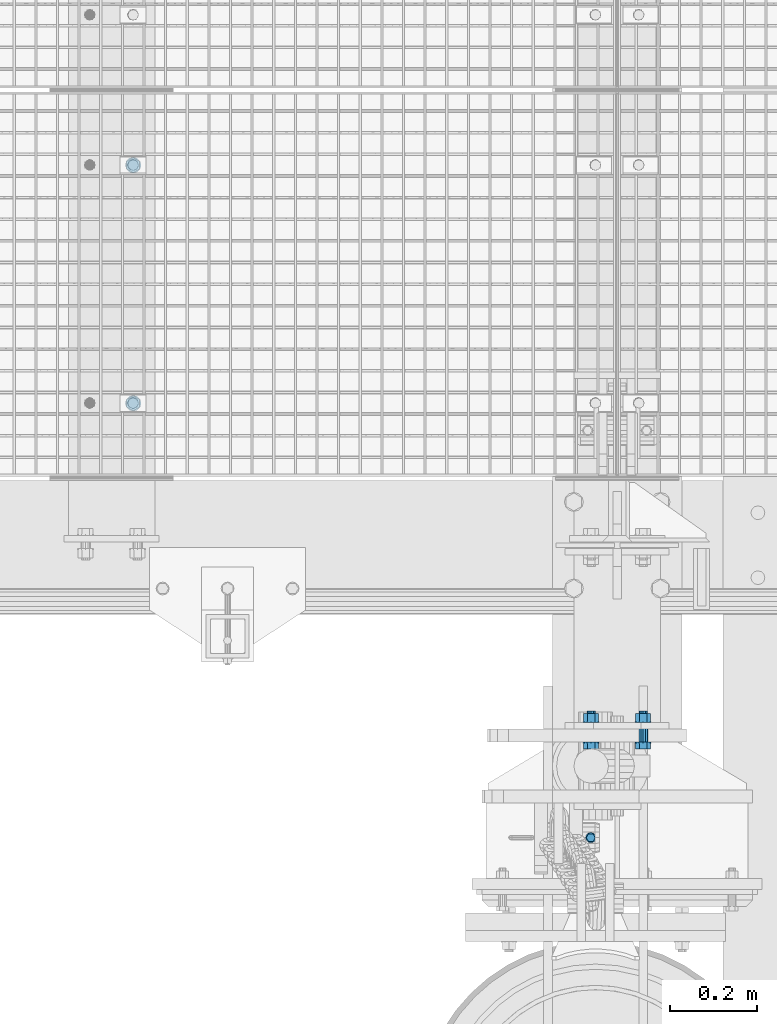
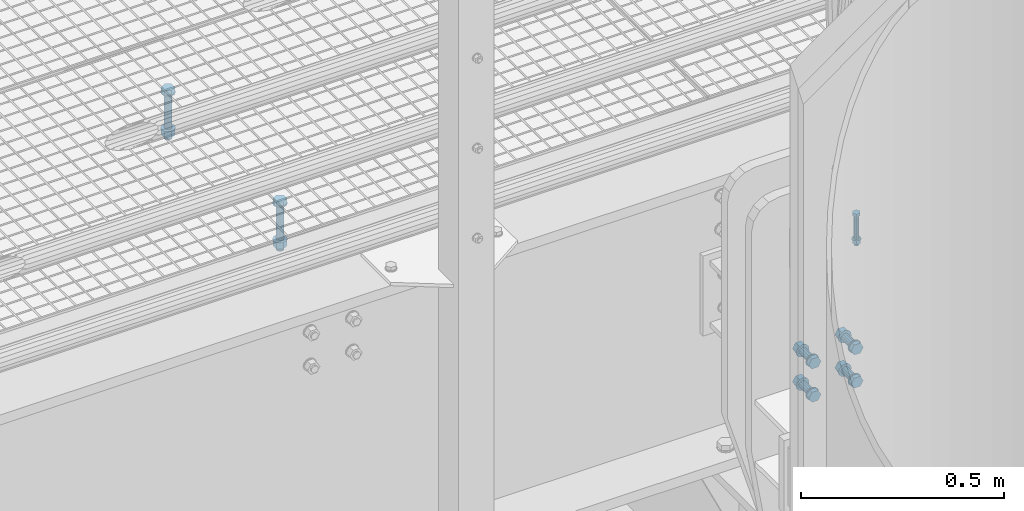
# One storey, part 20 of 1530: 3 mechanical fasteners.
"""IFC2X3 building model written with IfcOpenShell, lengths in millimetres."""

from ifc_helpers import new_model, si_unit, frame, origin_with_axes, place, context, subcontext, project, spatial, faceted_brep, source, transform, mapped, material, type_object, element, save


model = new_model("IFC2X3")

# Units and contexts
model_context = context("Model", 3, precision=1e-05, world=origin_with_axes())
body_context = subcontext(model_context, "Body", "Model", "MODEL_VIEW")
ifc_project = project(units=[si_unit("LENGTHUNIT", "METRE", prefix="MILLI"), si_unit("AREAUNIT", "SQUARE_METRE"), si_unit("VOLUMEUNIT", "CUBIC_METRE"), si_unit("MASSUNIT", "GRAM", prefix="KILO"), si_unit("TIMEUNIT", "SECOND"), si_unit("PLANEANGLEUNIT", "RADIAN"), si_unit("SOLIDANGLEUNIT", "STERADIAN"), si_unit("THERMODYNAMICTEMPERATUREUNIT", "DEGREE_CELSIUS"), si_unit("LUMINOUSINTENSITYUNIT", "LUMEN")], contexts=[model_context])

# Site, building, storey
site_placement = place(None, origin_with_axes())
site = spatial("IfcSite", under=ifc_project, at=site_placement, Name="Brattvåg", CompositionType="ELEMENT")
building_placement = place(site_placement, origin_with_axes())
building = spatial("IfcBuilding", under=site, at=building_placement, Name="Undefined", CompositionType="ELEMENT")
storey_placement = place(building_placement, origin_with_axes())
storey = spatial("IfcBuildingStorey", under=building, at=storey_placement, Name="Undefined", CompositionType="ELEMENT", Elevation=0.0)

# Mechanical fasteners
ifc_material = material(Name="8")
mechanical_fastener_type = type_object("IfcMechanicalFastenerType", Name="Bolt assembly")
shared_shape_1 = source(origin_with_axes(), body_context, "Body", "Brep", [
    faceted_brep([(17.3205080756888, -10.5, 0.0), (8.66025403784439, -10.5, 15.0), (-8.66025403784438, -10.5, 15.0), (-17.3205080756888, -10.5, 2.12115047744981e-15), (-8.66025403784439, -10.5, -15.0), (8.66025403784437, -10.5, -15.0), (8.66025403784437, 2.0, -15.0), (-8.66025403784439, 2.0, -15.0), (-17.3205080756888, 2.0, 2.12115047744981e-15), (-8.66025403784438, 2.0, 15.0), (8.66025403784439, 2.0, 15.0), (17.3205080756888, 2.0, 0.0), (10.0, 2.0, 0.0), (8.66025403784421, 2.0, 5.0000000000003), (4.9999999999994, 2.0, 8.66025403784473), (-1.03633598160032e-12, 2.0, 10.0), (-5.00000000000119, 2.0, 8.6602540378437), (-8.66025403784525, 2.0, 4.99999999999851), (-10.0, 2.0, -2.07267196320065e-12), (-8.66025403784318, 2.0, -5.00000000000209), (-4.99999999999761, 2.0, -8.66025403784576), (3.09790571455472e-12, 2.0, -10.0), (5.00000000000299, 2.0, -8.66025403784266), (8.66025403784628, 2.0, -4.99999999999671), (8.66025403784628, 142.0, -4.99999999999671), (5.00000000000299, 142.0, -8.66025403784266), (3.09790571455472e-12, 142.0, -10.0), (-4.99999999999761, 142.0, -8.66025403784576), (-8.66025403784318, 142.0, -5.00000000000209), (-10.0, 142.0, -2.07267196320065e-12), (-8.66025403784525, 142.0, 4.99999999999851), (-5.00000000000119, 142.0, 8.6602540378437), (-1.03633598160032e-12, 142.0, 10.0), (4.9999999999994, 142.0, 8.66025403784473), (8.66025403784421, 142.0, 5.0000000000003), (10.0, 142.0, 0.0), (18.5, 2.0, 0.0), (16.0214699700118, 2.0, 9.25000000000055), (9.2499999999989, 2.0, 16.0214699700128), (-1.9172215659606e-12, 2.0, 18.5), (-9.25000000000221, 2.0, 16.0214699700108), (-16.0214699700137, 2.0, 9.24999999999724), (-18.5, 2.0, -3.83444313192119e-12), (-16.0214699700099, 2.0, -9.25000000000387), (-9.24999999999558, 2.0, -16.0214699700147), (5.73112557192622e-12, 2.0, -18.5), (9.25000000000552, 2.0, -16.0214699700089), (16.0214699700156, 2.0, -9.24999999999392), (16.0214699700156, 5.0, -9.24999999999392), (9.25000000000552, 5.0, -16.0214699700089), (5.73112557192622e-12, 5.0, -18.5), (-9.24999999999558, 5.0, -16.0214699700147), (-16.0214699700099, 5.0, -9.25000000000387), (-18.5, 5.0, -3.83444313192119e-12), (-16.0214699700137, 5.0, 9.24999999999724), (-9.25000000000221, 5.0, 16.0214699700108), (-1.9172215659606e-12, 5.0, 18.5), (9.2499999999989, 5.0, 16.0214699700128), (16.0214699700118, 5.0, 9.25000000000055), (18.5, 5.0, 0.0), (18.5, 109.998931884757, 0.0), (16.0214699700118, 109.998931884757, 9.25000000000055), (9.2499999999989, 109.998931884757, 16.0214699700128), (-1.9172215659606e-12, 109.998931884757, 18.5), (-9.25000000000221, 109.998931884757, 16.0214699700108), (-16.0214699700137, 109.998931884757, 9.24999999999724), (-18.5, 109.998931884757, -3.83444313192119e-12), (-16.0214699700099, 109.998931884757, -9.25000000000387), (-9.24999999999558, 109.998931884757, -16.0214699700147), (5.73112557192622e-12, 109.998931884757, -18.5), (9.25000000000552, 109.998931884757, -16.0214699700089), (16.0214699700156, 109.998931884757, -9.24999999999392), (16.0214699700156, 112.998931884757, -9.24999999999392), (9.25000000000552, 112.998931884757, -16.0214699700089), (5.73112557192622e-12, 112.998931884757, -18.5), (-9.24999999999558, 112.998931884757, -16.0214699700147), (-16.0214699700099, 112.998931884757, -9.25000000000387), (-18.5, 112.998931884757, -3.83444313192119e-12), (-16.0214699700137, 112.998931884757, 9.24999999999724), (-9.25000000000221, 112.998931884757, 16.0214699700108), (-1.9172215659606e-12, 112.998931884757, 18.5), (9.2499999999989, 112.998931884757, 16.0214699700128), (16.0214699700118, 112.998931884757, 9.25000000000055), (18.5, 112.998931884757, 0.0), (17.3205080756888, 112.998931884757, 0.0), (8.66025403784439, 112.998931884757, 15.0), (-8.66025403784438, 112.998931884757, 15.0), (-17.3205080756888, 112.998931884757, 2.12115047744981e-15), (-8.66025403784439, 112.998931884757, -15.0), (8.66025403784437, 112.998931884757, -15.0), (8.66025403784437, 130.998931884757, -15.0), (-8.66025403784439, 130.998931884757, -15.0), (-17.3205080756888, 130.998931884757, 2.12115047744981e-15), (-8.66025403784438, 130.998931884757, 15.0), (8.66025403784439, 130.998931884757, 15.0), (17.3205080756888, 130.998931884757, 0.0)], [[[0, 1, 2, 3, 4, 5]], [[6, 7, 8, 9, 10, 11]], [[0, 11, 10, 1]], [[1, 10, 9, 2]], [[2, 9, 8, 3]], [[3, 8, 7, 4]], [[4, 7, 6, 5]], [[5, 6, 11, 0]], [[12, 13, 14, 15, 16, 17, 18, 19, 20, 21, 22, 23]], [[24, 25, 26, 27, 28, 29, 30, 31, 32, 33, 34, 35]], [[12, 35, 34, 13]], [[13, 34, 33, 14]], [[14, 33, 32, 15]], [[15, 32, 31, 16]], [[16, 31, 30, 17]], [[17, 30, 29, 18]], [[18, 29, 28, 19]], [[19, 28, 27, 20]], [[20, 27, 26, 21]], [[21, 26, 25, 22]], [[22, 25, 24, 23]], [[23, 24, 35, 12]], [[36, 37, 38, 39, 40, 41, 42, 43, 44, 45, 46, 47]], [[48, 49, 50, 51, 52, 53, 54, 55, 56, 57, 58, 59]], [[36, 59, 58, 37]], [[37, 58, 57, 38]], [[38, 57, 56, 39]], [[39, 56, 55, 40]], [[40, 55, 54, 41]], [[41, 54, 53, 42]], [[42, 53, 52, 43]], [[43, 52, 51, 44]], [[44, 51, 50, 45]], [[45, 50, 49, 46]], [[46, 49, 48, 47]], [[47, 48, 59, 36]], [[60, 61, 62, 63, 64, 65, 66, 67, 68, 69, 70, 71]], [[72, 73, 74, 75, 76, 77, 78, 79, 80, 81, 82, 83]], [[60, 83, 82, 61]], [[61, 82, 81, 62]], [[62, 81, 80, 63]], [[63, 80, 79, 64]], [[64, 79, 78, 65]], [[65, 78, 77, 66]], [[66, 77, 76, 67]], [[67, 76, 75, 68]], [[68, 75, 74, 69]], [[69, 74, 73, 70]], [[70, 73, 72, 71]], [[71, 72, 83, 60]], [[84, 85, 86, 87, 88, 89]], [[90, 91, 92, 93, 94, 95]], [[84, 95, 94, 85]], [[85, 94, 93, 86]], [[86, 93, 92, 87]], [[87, 92, 91, 88]], [[88, 91, 90, 89]], [[89, 90, 95, 84]]]),
])
mechanical_fastener_1_placement = place(storey_placement, frame((11132.0119254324, 327.99, -25.0), z_axis=(-1.0, 1.99999855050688e-09, 0.0), x_axis=(0.0, 1.0, 0.0)))
element("IfcMechanicalFastener", 1, at=mechanical_fastener_1_placement, inside=storey, type_object=mechanical_fastener_type, material=ifc_material, Name="Bolt assembly", NominalDiameter=20.0, NominalLength=140.0, context=body_context, shape_type="MappedRepresentation", body=[
    mapped(shared_shape_1, transform((0.0, 0.0, 0.0))),
    mapped(shared_shape_1, transform((549.999999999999, 0.0, 0.0))),
])
shared_shape_2 = source(origin_with_axes(), body_context, "Body", "Brep", [
    faceted_brep([(10.3923048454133, -7.92069730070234, 0.0), (5.19615242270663, -7.92069730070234, 9.0), (-5.19615242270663, -7.92069730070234, 9.0), (-10.3923048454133, -7.92069730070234, 1.27269028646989e-15), (-5.19615242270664, -7.92069730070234, -9.0), (5.19615242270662, -7.92069730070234, -9.0), (5.19615242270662, -0.000697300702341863, -9.0), (-5.19615242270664, -0.000697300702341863, -9.0), (-10.3923048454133, -0.000697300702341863, 1.27269028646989e-15), (-5.19615242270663, -0.000697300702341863, 9.0), (5.19615242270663, -0.000697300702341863, 9.0), (10.3923048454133, -0.000697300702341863, 0.0), (6.0, -0.000697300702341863, 0.0), (5.19615242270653, -0.000697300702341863, 3.00000000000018), (2.99999999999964, -0.000697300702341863, 5.19615242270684), (-6.21801588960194e-13, -0.000697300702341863, 6.0), (-3.00000000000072, -0.000697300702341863, 5.19615242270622), (-5.19615242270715, -0.000697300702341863, 2.9999999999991), (-6.0, -0.000697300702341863, -1.24360317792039e-12), (-5.19615242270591, -0.000697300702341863, -3.00000000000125), (-2.99999999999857, -0.000697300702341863, -5.19615242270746), (1.85874342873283e-12, -0.000697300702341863, -6.0), (3.00000000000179, -0.000697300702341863, -5.1961524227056), (5.19615242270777, -0.000697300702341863, -2.99999999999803), (5.19615242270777, 89.9993026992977, -2.99999999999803), (3.00000000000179, 89.9993026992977, -5.1961524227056), (1.85874342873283e-12, 89.9993026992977, -6.0), (-2.99999999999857, 89.9993026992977, -5.19615242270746), (-5.19615242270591, 89.9993026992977, -3.00000000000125), (-6.0, 89.9993026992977, -1.24360317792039e-12), (-5.19615242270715, 89.9993026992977, 2.9999999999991), (-3.00000000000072, 89.9993026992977, 5.19615242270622), (-6.21801588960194e-13, 89.9993026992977, 6.0), (2.99999999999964, 89.9993026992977, 5.19615242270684), (5.19615242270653, 89.9993026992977, 3.00000000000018), (6.0, 89.9993026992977, 0.0), (12.0, 69.9990430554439, 0.0), (10.3923048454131, 69.9990430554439, 6.00000000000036), (5.99999999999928, 69.9990430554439, 10.3923048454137), (-1.24360317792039e-12, 69.9990430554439, 12.0), (-6.00000000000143, 69.9990430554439, 10.3923048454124), (-10.3923048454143, 69.9990430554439, 5.99999999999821), (-12.0, 69.9990430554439, -2.48720635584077e-12), (-10.3923048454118, 69.9990430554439, -6.00000000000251), (-5.99999999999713, 69.9990430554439, -10.3923048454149), (3.71748685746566e-12, 69.9990430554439, -12.0), (6.00000000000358, 69.9990430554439, -10.3923048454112), (10.3923048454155, 69.9990430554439, -5.99999999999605), (10.3923048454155, 72.4990430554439, -5.99999999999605), (6.00000000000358, 72.4990430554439, -10.3923048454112), (3.71748685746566e-12, 72.4990430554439, -12.0), (-5.99999999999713, 72.4990430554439, -10.3923048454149), (-10.3923048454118, 72.4990430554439, -6.00000000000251), (-12.0, 72.4990430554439, -2.48720635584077e-12), (-10.3923048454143, 72.4990430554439, 5.99999999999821), (-6.00000000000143, 72.4990430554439, 10.3923048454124), (-1.24360317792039e-12, 72.4990430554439, 12.0), (5.99999999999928, 72.4990430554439, 10.3923048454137), (10.3923048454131, 72.4990430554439, 6.00000000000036), (12.0, 72.4990430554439, 0.0), (10.9696551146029, 72.4990430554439, 0.0), (5.48482755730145, 72.4990430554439, 9.5), (-5.48482755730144, 72.4990430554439, 9.5), (-10.9696551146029, 72.4990430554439, 1.34339530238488e-15), (-5.48482755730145, 72.4990430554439, -9.5), (5.48482755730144, 72.4990430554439, -9.5), (5.48482755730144, 82.4990430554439, -9.5), (-5.48482755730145, 82.4990430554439, -9.5), (-10.9696551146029, 82.4990430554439, 1.34339530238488e-15), (-5.48482755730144, 82.4990430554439, 9.5), (5.48482755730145, 82.4990430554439, 9.5), (10.9696551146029, 82.4990430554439, 0.0)], [[[0, 1, 2, 3, 4, 5]], [[6, 7, 8, 9, 10, 11]], [[0, 11, 10, 1]], [[1, 10, 9, 2]], [[2, 9, 8, 3]], [[3, 8, 7, 4]], [[4, 7, 6, 5]], [[5, 6, 11, 0]], [[12, 13, 14, 15, 16, 17, 18, 19, 20, 21, 22, 23]], [[24, 25, 26, 27, 28, 29, 30, 31, 32, 33, 34, 35]], [[12, 35, 34, 13]], [[13, 34, 33, 14]], [[14, 33, 32, 15]], [[15, 32, 31, 16]], [[16, 31, 30, 17]], [[17, 30, 29, 18]], [[18, 29, 28, 19]], [[19, 28, 27, 20]], [[20, 27, 26, 21]], [[21, 26, 25, 22]], [[22, 25, 24, 23]], [[23, 24, 35, 12]], [[36, 37, 38, 39, 40, 41, 42, 43, 44, 45, 46, 47]], [[48, 49, 50, 51, 52, 53, 54, 55, 56, 57, 58, 59]], [[36, 59, 58, 37]], [[37, 58, 57, 38]], [[38, 57, 56, 39]], [[39, 56, 55, 40]], [[40, 55, 54, 41]], [[41, 54, 53, 42]], [[42, 53, 52, 43]], [[43, 52, 51, 44]], [[44, 51, 50, 45]], [[45, 50, 49, 46]], [[46, 49, 48, 47]], [[47, 48, 59, 36]], [[60, 61, 62, 63, 64, 65]], [[66, 67, 68, 69, 70, 71]], [[60, 71, 70, 61]], [[61, 70, 69, 62]], [[62, 69, 68, 63]], [[63, 68, 67, 64]], [[64, 67, 66, 65]], [[65, 66, 71, 60]]]),
    faceted_brep([(7.0, -0.000697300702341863, 0.0), (6.06217782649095, -0.000697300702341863, 3.50000000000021), (3.49999999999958, -0.000697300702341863, 6.06217782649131), (-7.25435187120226e-13, -0.000697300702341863, 7.0), (-3.50000000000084, -0.000697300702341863, 6.06217782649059), (-6.06217782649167, -0.000697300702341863, 3.49999999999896), (-7.0, -0.000697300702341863, -1.45087037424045e-12), (-6.06217782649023, -0.000697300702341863, -3.50000000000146), (-3.49999999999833, -0.000697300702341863, -6.06217782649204), (2.1685340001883e-12, -0.000697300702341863, -7.0), (3.50000000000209, -0.000697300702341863, -6.06217782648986), (6.0621778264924, -0.000697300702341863, -3.4999999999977), (6.0621778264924, 70.0990430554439, -3.4999999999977), (3.50000000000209, 70.0990430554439, -6.06217782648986), (2.1685340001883e-12, 70.0990430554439, -7.0), (-3.49999999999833, 70.0990430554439, -6.06217782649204), (-6.06217782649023, 70.0990430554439, -3.50000000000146), (-7.0, 70.0990430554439, -1.45087037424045e-12), (-6.06217782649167, 70.0990430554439, 3.49999999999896), (-3.50000000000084, 70.0990430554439, 6.06217782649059), (-7.25435187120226e-13, 70.0990430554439, 7.0), (3.49999999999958, 70.0990430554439, 6.06217782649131), (6.06217782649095, 70.0990430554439, 3.50000000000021), (7.0, 70.0990430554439, 0.0)], [[[0, 1, 2, 3, 4, 5, 6, 7, 8, 9, 10, 11]], [[12, 13, 14, 15, 16, 17, 18, 19, 20, 21, 22, 23]], [[0, 23, 22, 1]], [[1, 22, 21, 2]], [[2, 21, 20, 3]], [[3, 20, 19, 4]], [[4, 19, 18, 5]], [[5, 18, 17, 6]], [[6, 17, 16, 7]], [[7, 16, 15, 8]], [[8, 15, 14, 9]], [[9, 14, 13, 10]], [[10, 13, 12, 11]], [[11, 12, 23, 0]]]),
])
mechanical_fastener_2_placement = place(storey_placement, frame((12188.9950409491, -675.491106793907, 174.999176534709), z_axis=(-6.53450002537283e-05, -0.999999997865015, -2.8421709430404e-17), x_axis=(-0.999999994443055, 6.53450000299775e-05, -8.2728000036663e-05)))
element("IfcMechanicalFastener", 2, at=mechanical_fastener_2_placement, inside=storey, type_object=mechanical_fastener_type, material=ifc_material, Name="Bolt assembly", NominalDiameter=12.0, NominalLength=90.0, context=body_context, shape_type="MappedRepresentation", body=[
    mapped(shared_shape_2, transform((0.0, 0.0, 0.0))),
])
shared_shape_3 = source(origin_with_axes(), body_context, "Body", "Brep", [
    faceted_brep([(17.3205080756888, -45.4981880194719, 0.0), (8.66025403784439, -45.4981880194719, 15.0), (-8.66025403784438, -45.4981880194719, 15.0), (-17.3205080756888, -45.4981880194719, 2.12115047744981e-15), (-8.66025403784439, -45.4981880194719, -15.0), (8.66025403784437, -45.4981880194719, -15.0), (8.66025403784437, -32.9981880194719, -15.0), (-8.66025403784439, -32.9981880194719, -15.0), (-17.3205080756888, -32.9981880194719, 2.12115047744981e-15), (-8.66025403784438, -32.9981880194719, 15.0), (8.66025403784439, -32.9981880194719, 15.0), (17.3205080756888, -32.9981880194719, 0.0), (10.0, -32.9981880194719, 0.0), (8.66025403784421, -32.9981880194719, 5.0000000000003), (4.9999999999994, -32.9981880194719, 8.66025403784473), (-1.03633598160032e-12, -32.9981880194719, 10.0), (-5.00000000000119, -32.9981880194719, 8.6602540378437), (-8.66025403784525, -32.9981880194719, 4.99999999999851), (-10.0, -32.9981880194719, -2.07267196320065e-12), (-8.66025403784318, -32.9981880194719, -5.00000000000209), (-4.99999999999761, -32.9981880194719, -8.66025403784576), (3.09790571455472e-12, -32.9981880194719, -10.0), (5.00000000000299, -32.9981880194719, -8.66025403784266), (8.66025403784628, -32.9981880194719, -4.99999999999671), (8.66025403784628, 42.0018119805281, -4.99999999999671), (5.00000000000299, 42.0018119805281, -8.66025403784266), (3.09790571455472e-12, 42.0018119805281, -10.0), (-4.99999999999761, 42.0018119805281, -8.66025403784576), (-8.66025403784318, 42.0018119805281, -5.00000000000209), (-10.0, 42.0018119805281, -2.07267196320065e-12), (-8.66025403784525, 42.0018119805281, 4.99999999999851), (-5.00000000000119, 42.0018119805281, 8.6602540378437), (-1.03633598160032e-12, 42.0018119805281, 10.0), (4.9999999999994, 42.0018119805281, 8.66025403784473), (8.66025403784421, 42.0018119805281, 5.0000000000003), (10.0, 42.0018119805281, 0.0), (18.5, -32.9981880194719, 0.0), (16.0214699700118, -32.9981880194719, 9.25000000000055), (9.2499999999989, -32.9981880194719, 16.0214699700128), (-1.9172215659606e-12, -32.9981880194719, 18.5), (-9.25000000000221, -32.9981880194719, 16.0214699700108), (-16.0214699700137, -32.9981880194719, 9.24999999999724), (-18.5, -32.9981880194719, -3.83444313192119e-12), (-16.0214699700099, -32.9981880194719, -9.25000000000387), (-9.24999999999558, -32.9981880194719, -16.0214699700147), (5.73112557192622e-12, -32.9981880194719, -18.5), (9.25000000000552, -32.9981880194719, -16.0214699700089), (16.0214699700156, -32.9981880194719, -9.24999999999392), (16.0214699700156, -29.9981880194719, -9.24999999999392), (9.25000000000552, -29.9981880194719, -16.0214699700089), (5.73112557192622e-12, -29.9981880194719, -18.5), (-9.24999999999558, -29.9981880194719, -16.0214699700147), (-16.0214699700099, -29.9981880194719, -9.25000000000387), (-18.5, -29.9981880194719, -3.83444313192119e-12), (-16.0214699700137, -29.9981880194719, 9.24999999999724), (-9.25000000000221, -29.9981880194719, 16.0214699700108), (-1.9172215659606e-12, -29.9981880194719, 18.5), (9.2499999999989, -29.9981880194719, 16.0214699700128), (16.0214699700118, -29.9981880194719, 9.25000000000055), (18.5, -29.9981880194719, 0.0), (18.5, 15.0000000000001, 0.0), (16.0214699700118, 15.0000000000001, 9.25000000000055), (9.2499999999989, 15.0000000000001, 16.0214699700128), (-1.9172215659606e-12, 15.0000000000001, 18.5), (-9.25000000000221, 15.0000000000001, 16.0214699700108), (-16.0214699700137, 15.0000000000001, 9.24999999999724), (-18.5, 15.0000000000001, -3.83444313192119e-12), (-16.0214699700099, 15.0000000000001, -9.25000000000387), (-9.24999999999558, 15.0000000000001, -16.0214699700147), (5.73112557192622e-12, 15.0000000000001, -18.5), (9.25000000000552, 15.0000000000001, -16.0214699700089), (16.0214699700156, 15.0000000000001, -9.24999999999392), (16.0214699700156, 18.0000000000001, -9.24999999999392), (9.25000000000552, 18.0000000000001, -16.0214699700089), (5.73112557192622e-12, 18.0000000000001, -18.5), (-9.24999999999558, 18.0000000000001, -16.0214699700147), (-16.0214699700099, 18.0000000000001, -9.25000000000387), (-18.5, 18.0000000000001, -3.83444313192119e-12), (-16.0214699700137, 18.0000000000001, 9.24999999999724), (-9.25000000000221, 18.0000000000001, 16.0214699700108), (-1.9172215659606e-12, 18.0000000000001, 18.5), (9.2499999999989, 18.0000000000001, 16.0214699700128), (16.0214699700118, 18.0000000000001, 9.25000000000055), (18.5, 18.0000000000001, 0.0), (17.3205080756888, 18.0000000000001, 0.0), (8.66025403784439, 18.0000000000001, 15.0), (-8.66025403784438, 18.0000000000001, 15.0), (-17.3205080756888, 18.0000000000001, 2.12115047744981e-15), (-8.66025403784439, 18.0000000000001, -15.0), (8.66025403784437, 18.0000000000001, -15.0), (8.66025403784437, 36.0000000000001, -15.0), (-8.66025403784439, 36.0000000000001, -15.0), (-17.3205080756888, 36.0000000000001, 2.12115047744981e-15), (-8.66025403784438, 36.0000000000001, 15.0), (8.66025403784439, 36.0000000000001, 15.0), (17.3205080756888, 36.0000000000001, 0.0)], [[[0, 1, 2, 3, 4, 5]], [[6, 7, 8, 9, 10, 11]], [[0, 11, 10, 1]], [[1, 10, 9, 2]], [[2, 9, 8, 3]], [[3, 8, 7, 4]], [[4, 7, 6, 5]], [[5, 6, 11, 0]], [[12, 13, 14, 15, 16, 17, 18, 19, 20, 21, 22, 23]], [[24, 25, 26, 27, 28, 29, 30, 31, 32, 33, 34, 35]], [[12, 35, 34, 13]], [[13, 34, 33, 14]], [[14, 33, 32, 15]], [[15, 32, 31, 16]], [[16, 31, 30, 17]], [[17, 30, 29, 18]], [[18, 29, 28, 19]], [[19, 28, 27, 20]], [[20, 27, 26, 21]], [[21, 26, 25, 22]], [[22, 25, 24, 23]], [[23, 24, 35, 12]], [[36, 37, 38, 39, 40, 41, 42, 43, 44, 45, 46, 47]], [[48, 49, 50, 51, 52, 53, 54, 55, 56, 57, 58, 59]], [[36, 59, 58, 37]], [[37, 58, 57, 38]], [[38, 57, 56, 39]], [[39, 56, 55, 40]], [[40, 55, 54, 41]], [[41, 54, 53, 42]], [[42, 53, 52, 43]], [[43, 52, 51, 44]], [[44, 51, 50, 45]], [[45, 50, 49, 46]], [[46, 49, 48, 47]], [[47, 48, 59, 36]], [[60, 61, 62, 63, 64, 65, 66, 67, 68, 69, 70, 71]], [[72, 73, 74, 75, 76, 77, 78, 79, 80, 81, 82, 83]], [[60, 83, 82, 61]], [[61, 82, 81, 62]], [[62, 81, 80, 63]], [[63, 80, 79, 64]], [[64, 79, 78, 65]], [[65, 78, 77, 66]], [[66, 77, 76, 67]], [[67, 76, 75, 68]], [[68, 75, 74, 69]], [[69, 74, 73, 70]], [[70, 73, 72, 71]], [[71, 72, 83, 60]], [[84, 85, 86, 87, 88, 89]], [[90, 91, 92, 93, 94, 95]], [[84, 95, 94, 85]], [[85, 94, 93, 86]], [[86, 93, 92, 87]], [[87, 92, 91, 88]], [[88, 91, 90, 89]], [[89, 90, 95, 84]]]),
    faceted_brep([(11.0, -29.8981880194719, 0.0), (9.52627944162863, -29.8981880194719, 5.50000000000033), (5.49999999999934, -29.8981880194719, 9.5262794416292), (-1.13996957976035e-12, -29.8981880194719, 11.0), (-5.50000000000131, -29.8981880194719, 9.52627944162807), (-9.52627944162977, -29.8981880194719, 5.49999999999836), (-11.0, -29.8981880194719, -2.27993915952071e-12), (-9.5262794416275, -29.8981880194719, -5.5000000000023), (-5.49999999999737, -29.8981880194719, -9.52627944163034), (3.40769628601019e-12, -29.8981880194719, -11.0), (5.50000000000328, -29.8981880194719, -9.52627944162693), (9.52627944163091, -29.8981880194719, -5.49999999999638), (9.52627944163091, 0.101811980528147, -5.49999999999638), (5.50000000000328, 0.101811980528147, -9.52627944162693), (3.40769628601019e-12, 0.101811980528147, -11.0), (-5.49999999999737, 0.101811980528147, -9.52627944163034), (-9.5262794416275, 0.101811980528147, -5.5000000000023), (-11.0, 0.101811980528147, -2.27993915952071e-12), (-9.52627944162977, 0.101811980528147, 5.49999999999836), (-5.50000000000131, 0.101811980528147, 9.52627944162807), (-1.13996957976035e-12, 0.101811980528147, 11.0), (5.49999999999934, 0.101811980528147, 9.5262794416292), (9.52627944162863, 0.101811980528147, 5.50000000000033), (11.0, 0.101811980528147, 0.0), (11.0, -0.1, 0.0), (9.52627944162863, -0.1, 5.50000000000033), (5.49999999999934, -0.1, 9.5262794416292), (-1.13996957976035e-12, -0.1, 11.0), (-5.50000000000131, -0.1, 9.52627944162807), (-9.52627944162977, -0.1, 5.49999999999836), (-11.0, -0.1, -2.27993915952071e-12), (-9.5262794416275, -0.1, -5.5000000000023), (-5.49999999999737, -0.1, -9.52627944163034), (3.40769628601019e-12, -0.1, -11.0), (5.50000000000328, -0.1, -9.52627944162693), (9.52627944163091, -0.1, -5.49999999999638), (9.52627944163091, 15.0000000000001, -5.49999999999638), (5.50000000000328, 15.0000000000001, -9.52627944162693), (3.40769628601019e-12, 15.0000000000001, -11.0), (-5.49999999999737, 15.0000000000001, -9.52627944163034), (-9.5262794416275, 15.0000000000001, -5.5000000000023), (-11.0, 15.0000000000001, -2.27993915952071e-12), (-9.52627944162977, 15.0000000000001, 5.49999999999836), (-5.50000000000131, 15.0000000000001, 9.52627944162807), (-1.13996957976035e-12, 15.0000000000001, 11.0), (5.49999999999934, 15.0000000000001, 9.5262794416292), (9.52627944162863, 15.0000000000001, 5.50000000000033), (11.0, 15.0000000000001, 0.0)], [[[0, 1, 2, 3, 4, 5, 6, 7, 8, 9, 10, 11]], [[12, 13, 14, 15, 16, 17, 18, 19, 20, 21, 22, 23]], [[0, 23, 22, 1]], [[1, 22, 21, 2]], [[2, 21, 20, 3]], [[3, 20, 19, 4]], [[4, 19, 18, 5]], [[5, 18, 17, 6]], [[6, 17, 16, 7]], [[7, 16, 15, 8]], [[8, 15, 14, 9]], [[9, 14, 13, 10]], [[10, 13, 12, 11]], [[11, 12, 23, 0]], [[24, 25, 26, 27, 28, 29, 30, 31, 32, 33, 34, 35]], [[36, 37, 38, 39, 40, 41, 42, 43, 44, 45, 46, 47]], [[24, 47, 46, 25]], [[25, 46, 45, 26]], [[26, 45, 44, 27]], [[27, 44, 43, 28]], [[28, 43, 42, 29]], [[29, 42, 41, 30]], [[30, 41, 40, 31]], [[31, 40, 39, 32]], [[32, 39, 38, 33]], [[33, 38, 37, 34]], [[34, 37, 36, 35]], [[35, 36, 47, 24]]]),
])
mechanical_fastener_3_placement = place(storey_placement, frame((12310.0019683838, -425.001495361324, -444.998836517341), z_axis=(0.0, 0.0, -1.0), x_axis=(-1.0, 1.99999855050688e-09, 0.0)))
element("IfcMechanicalFastener", 3, at=mechanical_fastener_3_placement, inside=storey, type_object=mechanical_fastener_type, material=ifc_material, Name="Bolt assembly", NominalDiameter=20.0, NominalLength=75.0, context=body_context, shape_type="MappedRepresentation", body=[
    mapped(shared_shape_3, transform((0.0, 0.0, 50.0))),
    mapped(shared_shape_3, transform((120.0, 0.0, 50.0))),
    mapped(shared_shape_3, transform((0.0, 0.0, -50.0))),
    mapped(shared_shape_3, transform((120.0, 0.0, -50.0))),
])

save(model, "model.ifc")
